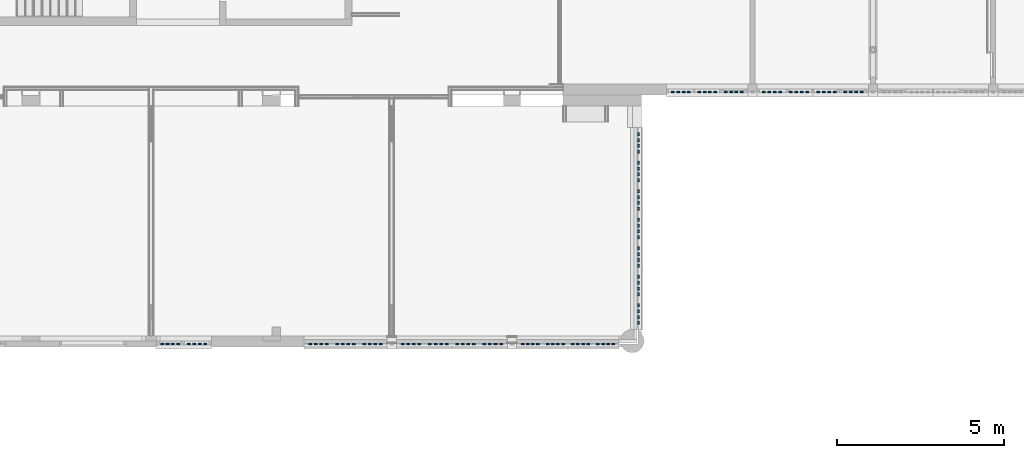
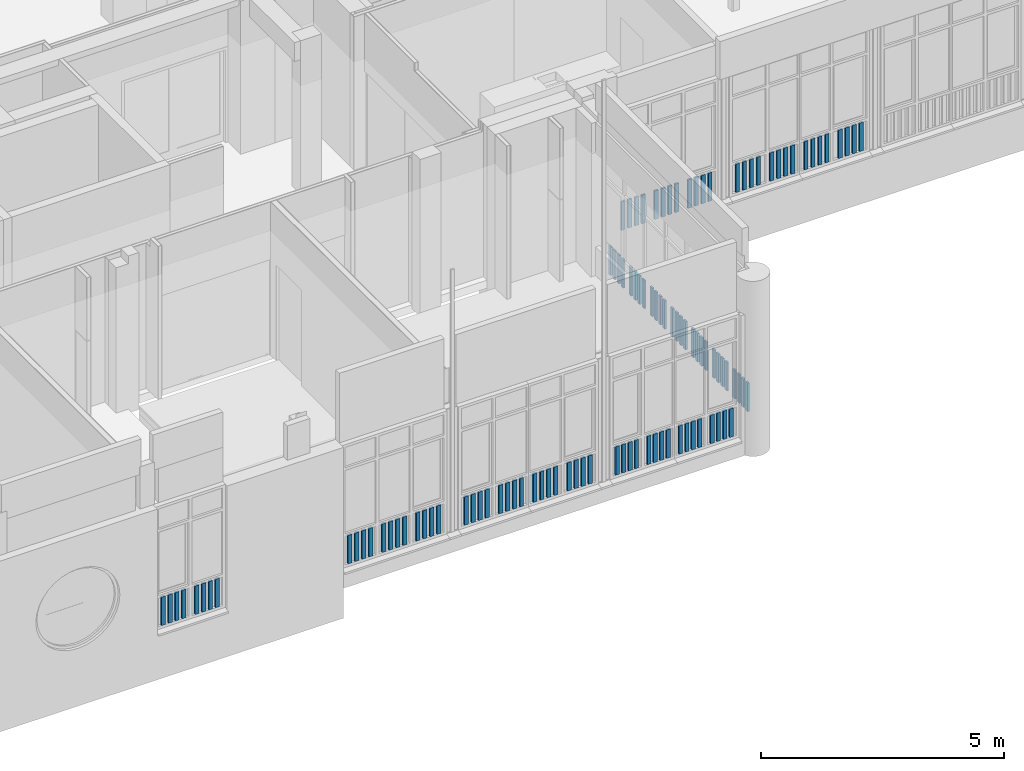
# One storey, part 53 of 135: 108 columns.
"""IFC2X3 building model written with IfcOpenShell, lengths in millimetres."""

from ifc_helpers import new_model, entity, si_unit, converted_unit, derived_unit, money_unit, direction, frame, origin_with_axes, place, context, subcontext, project, spatial, faceted_brep, material, type_object, element, save


model = new_model("IFC2X3")

# Units and contexts
model_context = context("Model", 3, precision=0.01, world=origin_with_axes(), true_north=direction((0.0, 1.0)))
body_context = subcontext(model_context, "Body", "Model", "MODEL_VIEW")
ifc_project = project(units=[si_unit("LENGTHUNIT", "METRE", prefix="MILLI"), si_unit("AREAUNIT", "SQUARE_METRE"), si_unit("VOLUMEUNIT", "CUBIC_METRE"), converted_unit("PLANEANGLEUNIT", "DEGREE", entity("IfcPlaneAngleMeasure", 0.0174532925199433), si_unit("PLANEANGLEUNIT", "RADIAN"), dimensions=[0, 0, 0, 0, 0, 0, 0]), money_unit("EUR"), converted_unit("TIMEUNIT", "Year", entity("IfcTimeMeasure", 31557600.0), si_unit("TIMEUNIT", "SECOND"), dimensions=[0, 0, 1, 0, 0, 0, 0]), si_unit("MASSUNIT", "GRAM", prefix="KILO"), si_unit("THERMODYNAMICTEMPERATUREUNIT", "DEGREE_CELSIUS"), si_unit("LUMINOUSINTENSITYUNIT", "LUMEN"), si_unit("ENERGYUNIT", "JOULE", prefix="MEGA"), derived_unit("THERMALCONDUCTANCEUNIT", [(si_unit("POWERUNIT", "WATT"), 1), (si_unit("LENGTHUNIT", "METRE"), -1), (si_unit("THERMODYNAMICTEMPERATUREUNIT", "KELVIN"), -1)]), derived_unit("SPECIFICHEATCAPACITYUNIT", [(si_unit("ENERGYUNIT", "JOULE"), 1), (si_unit("MASSUNIT", "GRAM", prefix="KILO"), -1), (si_unit("THERMODYNAMICTEMPERATUREUNIT", "KELVIN"), -1)]), derived_unit("MASSDENSITYUNIT", [(si_unit("MASSUNIT", "GRAM", prefix="KILO"), 1), (si_unit("VOLUMEUNIT", "CUBIC_METRE"), -1)])], contexts=[model_context])

# Site, building, storey
site_placement = place(None, origin_with_axes())
site = spatial("IfcSite", under=ifc_project, at=site_placement, Name="Site", CompositionType="ELEMENT")
building_placement = place(site_placement, origin_with_axes())
building = spatial("IfcBuilding", under=site, at=building_placement, Name="Naam gebouw", CompositionType="ELEMENT")
storey_placement = place(building_placement, origin_with_axes())
storey = spatial("IfcBuildingStorey", under=building, at=storey_placement, Name="Begane grond N", CompositionType="ELEMENT", Elevation=0.0)

# Columns
ifc_material = material(Name="Metaal - Staal C")
column_type = type_object("IfcColumnType", Name="Metaal - Staal C 90 x 44", PredefinedType="COLUMN")
for number, where, z_axis, x_axis, name in (
    (1, (24871.79800084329, 3207.668707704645, 66.99999999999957), (0.0, 0.0, 1.0), (1.0, 0.0, 0.0), "_Kolom-x"),
    (2, (24706.92913451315, 3207.668707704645, 66.9999999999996), (0.0, 0.0, 1.0), (1.0, 0.0, 0.0), "_Kolom-x"),
    (3, (24542.06026818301, 3207.668707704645, 66.99999999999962), (0.0, 0.0, 1.0), (1.0, 0.0, 0.0), "_Kolom-x"),
    (4, (24377.19140185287, 3207.668707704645, 66.99999999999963), (0.0, 0.0, 1.0), (1.0, 0.0, 0.0), "_Kolom-x"),
):
    element("IfcColumn", number, at=place(storey_placement, frame(where, z_axis=z_axis, x_axis=x_axis)), inside=storey, type_object=column_type, material=ifc_material, Name=name, ObjectType="COLUMN", context=body_context, shape_type="Brep", body=[
        faceted_brep([(-45.00000000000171, -21.9999999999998, 715.9999999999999), (-45.00000000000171, -21.9999999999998, 0.0), (45.00000000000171, -21.9999999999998, 0.0), (45.00000000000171, -21.9999999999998, 715.9999999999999), (-45.00000000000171, 21.9999999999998, 715.9999999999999), (-45.00000000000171, 21.9999999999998, 0.0), (45.00000000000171, 21.9999999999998, 0.0), (45.00000000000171, 21.9999999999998, 715.9999999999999)], [[[0, 1, 2, 3]], [[4, 5, 1, 0]], [[2, 1, 5, 6]], [[3, 2, 6, 7]], [[4, 0, 3, 7]], [[7, 6, 5, 4]]]),
    ])
for number, where, z_axis, x_axis, name in (
    (5, (23898.01923602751, 3207.668707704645, 66.9999999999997), (0.0, 0.0, 1.0), (1.0, 0.0, 0.0), "_Kolom-x"),
    (6, (23733.15036969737, 3207.668707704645, 66.99999999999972), (0.0, 0.0, 1.0), (1.0, 0.0, 0.0), "_Kolom-x"),
    (7, (23568.28150336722, 3207.668707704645, 66.99999999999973), (0.0, 0.0, 1.0), (1.0, 0.0, 0.0), "_Kolom-x"),
    (8, (23253.97820387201, 3207.668707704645, 66.99999999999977), (0.0, 0.0, 1.0), (1.0, 0.0, 0.0), "_Kolom-x"),
    (9, (23089.10933754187, 3207.668707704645, 66.99999999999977), (0.0, 0.0, 1.0), (1.0, 0.0, 0.0), "_Kolom-x"),
    (10, (24062.88810235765, 3207.668707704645, 66.99999999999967), (0.0, 0.0, 1.0), (1.0, 0.0, 0.0), "_Kolom-x"),
):
    element("IfcColumn", number, at=place(storey_placement, frame(where, z_axis=z_axis, x_axis=x_axis)), inside=storey, type_object=column_type, material=ifc_material, Name=name, ObjectType="COLUMN", context=body_context, shape_type="Brep", body=[
        faceted_brep([(-45.00000000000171, -21.9999999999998, 715.9999999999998), (-45.00000000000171, -21.9999999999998, 0.0), (45.00000000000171, -21.9999999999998, 0.0), (45.00000000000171, -21.9999999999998, 715.9999999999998), (-45.00000000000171, 21.9999999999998, 715.9999999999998), (-45.00000000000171, 21.9999999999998, 0.0), (45.00000000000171, 21.9999999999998, 0.0), (45.00000000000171, 21.9999999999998, 715.9999999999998)], [[[0, 1, 2, 3]], [[4, 5, 1, 0]], [[2, 1, 5, 6]], [[3, 2, 6, 7]], [[4, 0, 3, 7]], [[7, 6, 5, 4]]]),
    ])
for number, where, z_axis, x_axis, name in (
    (11, (22924.24047121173, 3207.668707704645, 66.99999999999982), (0.0, 0.0, 1.0), (1.0, 0.0, 0.0), "_Kolom-x"),
    (12, (22759.37160488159, 3207.668707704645, 66.99999999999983), (0.0, 0.0, 1.0), (1.0, 0.0, 0.0), "_Kolom-x"),
):
    element("IfcColumn", number, at=place(storey_placement, frame(where, z_axis=z_axis, x_axis=x_axis)), inside=storey, type_object=column_type, material=ifc_material, Name=name, ObjectType="COLUMN", context=body_context, shape_type="Brep", body=[
        faceted_brep([(-45.00000000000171, -21.9999999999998, 715.9999999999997), (-45.00000000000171, -21.9999999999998, 0.0), (45.00000000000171, -21.9999999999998, 0.0), (45.00000000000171, -21.9999999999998, 715.9999999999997), (-45.00000000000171, 21.9999999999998, 715.9999999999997), (-45.00000000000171, 21.9999999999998, 0.0), (45.00000000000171, 21.9999999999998, 0.0), (45.00000000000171, 21.9999999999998, 715.9999999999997)], [[[0, 1, 2, 3]], [[4, 5, 1, 0]], [[2, 1, 5, 6]], [[3, 2, 6, 7]], [[4, 0, 3, 7]], [[7, 6, 5, 4]]]),
    ])
for number, where, z_axis, x_axis, name in (
    (13, (25529.03636801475, 3207.668707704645, 66.9999999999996), (0.0, 0.0, 1.0), (1.0, 0.0, 0.0), "_Kolom-x"),
    (14, (25695.15199124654, 3207.668707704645, 66.9999999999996), (0.0, 0.0, 1.0), (1.0, 0.0, 0.0), "_Kolom-x"),
    (15, (25861.26761447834, 3207.668707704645, 66.9999999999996), (0.0, 0.0, 1.0), (1.0, 0.0, 0.0), "_Kolom-x"),
    (16, (26027.38323771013, 3207.668707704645, 66.9999999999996), (0.0, 0.0, 1.0), (1.0, 0.0, 0.0), "_Kolom-x"),
    (17, (26509.67229578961, 3207.668707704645, 66.9999999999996), (0.0, 0.0, 1.0), (1.0, 0.0, 0.0), "_Kolom-x"),
    (18, (26343.55667255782, 3207.668707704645, 66.9999999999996), (0.0, 0.0, 1.0), (1.0, 0.0, 0.0), "_Kolom-x"),
    (19, (26675.78791902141, 3207.668707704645, 66.9999999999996), (0.0, 0.0, 1.0), (1.0, 0.0, 0.0), "_Kolom-x"),
    (20, (26841.9035422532, 3207.668707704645, 66.9999999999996), (0.0, 0.0, 1.0), (1.0, 0.0, 0.0), "_Kolom-x"),
    (21, (27158.07697710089, 3207.668707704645, 66.9999999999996), (0.0, 0.0, 1.0), (1.0, 0.0, 0.0), "_Kolom-x"),
    (22, (27324.19260033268, 3207.668707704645, 66.9999999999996), (0.0, 0.0, 1.0), (1.0, 0.0, 0.0), "_Kolom-x"),
    (23, (27490.30822356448, 3207.668707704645, 66.9999999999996), (0.0, 0.0, 1.0), (1.0, 0.0, 0.0), "_Kolom-x"),
    (24, (27656.42384679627, 3207.668707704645, 66.9999999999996), (0.0, 0.0, 1.0), (1.0, 0.0, 0.0), "_Kolom-x"),
    (25, (27972.59728164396, 3207.668707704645, 66.9999999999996), (0.0, 0.0, 1.0), (1.0, 0.0, 0.0), "_Kolom-x"),
    (26, (28138.71290487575, 3207.668707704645, 66.9999999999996), (0.0, 0.0, 1.0), (1.0, 0.0, 0.0), "_Kolom-x"),
    (27, (28304.82852810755, 3207.668707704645, 66.9999999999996), (0.0, 0.0, 1.0), (1.0, 0.0, 0.0), "_Kolom-x"),
    (28, (28470.94415133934, 3207.668707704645, 66.9999999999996), (0.0, 0.0, 1.0), (1.0, 0.0, 0.0), "_Kolom-x"),
    (29, (29270.43364654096, 3207.668707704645, 66.9999999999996), (0.0, 0.0, 1.0), (1.0, 0.0, 0.0), "_Kolom-x"),
    (30, (29422.3780909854, 3207.668707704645, 66.9999999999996), (0.0, 0.0, 1.0), (1.0, 0.0, 0.0), "_Kolom-x"),
    (31, (29118.48920209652, 3207.668707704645, 66.9999999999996), (0.0, 0.0, 1.0), (1.0, 0.0, 0.0), "_Kolom-x"),
    (32, (29869.2392020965, 3207.668707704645, 66.9999999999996), (0.0, 0.0, 1.0), (1.0, 0.0, 0.0), "_Kolom-x"),
    (33, (30021.18364654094, 3207.668707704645, 66.9999999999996), (0.0, 0.0, 1.0), (1.0, 0.0, 0.0), "_Kolom-x"),
    (34, (29574.32253542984, 3207.668707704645, 66.9999999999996), (0.0, 0.0, 1.0), (1.0, 0.0, 0.0), "_Kolom-x"),
    (35, (30173.12809098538, 3207.668707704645, 66.9999999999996), (0.0, 0.0, 1.0), (1.0, 0.0, 0.0), "_Kolom-x"),
    (36, (30619.98920209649, 3207.668707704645, 66.9999999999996), (0.0, 0.0, 1.0), (1.0, 0.0, 0.0), "_Kolom-x"),
    (37, (30325.07253542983, 3207.668707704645, 66.9999999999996), (0.0, 0.0, 1.0), (1.0, 0.0, 0.0), "_Kolom-x"),
    (38, (30923.87809098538, 3207.668707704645, 66.9999999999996), (0.0, 0.0, 1.0), (1.0, 0.0, 0.0), "_Kolom-x"),
    (39, (30771.93364654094, 3207.668707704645, 66.9999999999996), (0.0, 0.0, 1.0), (1.0, 0.0, 0.0), "_Kolom-x"),
    (40, (31075.82253542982, 3207.668707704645, 66.9999999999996), (0.0, 0.0, 1.0), (1.0, 0.0, 0.0), "_Kolom-x"),
    (41, (31370.73920209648, 3207.668707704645, 66.9999999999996), (0.0, 0.0, 1.0), (1.0, 0.0, 0.0), "_Kolom-x"),
    (42, (31674.62809098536, 3207.668707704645, 66.9999999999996), (0.0, 0.0, 1.0), (1.0, 0.0, 0.0), "_Kolom-x"),
    (43, (31522.68364654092, 3207.668707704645, 66.9999999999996), (0.0, 0.0, 1.0), (1.0, 0.0, 0.0), "_Kolom-x"),
):
    element("IfcColumn", number, at=place(storey_placement, frame(where, z_axis=z_axis, x_axis=x_axis)), inside=storey, type_object=column_type, material=ifc_material, Name=name, ObjectType="COLUMN", context=body_context, shape_type="Brep", body=[
        faceted_brep([(-45.00000000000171, -21.9999999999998, 715.9999999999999), (-45.00000000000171, -21.9999999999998, 0.0), (45.00000000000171, -21.9999999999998, 0.0), (45.00000000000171, -21.9999999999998, 715.9999999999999), (-45.00000000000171, 21.9999999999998, 715.9999999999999), (-45.00000000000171, 21.9999999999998, 0.0), (45.00000000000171, 21.9999999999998, 0.0), (45.00000000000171, 21.9999999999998, 715.9999999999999)], [[[0, 1, 2, 3]], [[4, 5, 1, 0]], [[2, 1, 5, 6]], [[3, 2, 6, 7]], [[4, 0, 3, 7]], [[7, 6, 5, 4]]]),
    ])
column_1_placement = place(storey_placement, frame((19611.17837446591, 3207.668707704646, 67.00000000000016), z_axis=(0.0, 0.0, 1.0), x_axis=(1.0, 0.0, 0.0)))
element("IfcColumn", 44, at=column_1_placement, inside=storey, type_object=column_type, material=ifc_material, Name="_Kolom-x", ObjectType="COLUMN", context=body_context, shape_type="Brep", body=[
    faceted_brep([(-45.00000000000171, -21.9999999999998, 715.9999999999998), (-45.00000000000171, -21.9999999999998, 0.0), (45.00000000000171, -21.9999999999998, 0.0), (45.00000000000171, -21.9999999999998, 715.9999999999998), (-45.00000000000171, 21.9999999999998, 715.9999999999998), (-45.00000000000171, 21.9999999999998, 0.0), (45.00000000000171, 21.9999999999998, 0.0), (45.00000000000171, 21.9999999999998, 715.9999999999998)], [[[0, 1, 2, 3]], [[4, 5, 1, 0]], [[2, 1, 5, 6]], [[3, 2, 6, 7]], [[4, 0, 3, 7]], [[7, 6, 5, 4]]]),
])
column_2_placement = place(storey_placement, frame((31826.5725354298, 3207.668707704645, 66.9999999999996), z_axis=(0.0, 0.0, 1.0), x_axis=(1.0, 0.0, 0.0)))
element("IfcColumn", 45, at=column_2_placement, inside=storey, type_object=column_type, material=ifc_material, Name="_Kolom-x", ObjectType="COLUMN", context=body_context, shape_type="Brep", body=[
    faceted_brep([(-45.00000000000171, -21.9999999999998, 715.9999999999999), (-45.00000000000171, -21.9999999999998, 0.0), (45.00000000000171, -21.9999999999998, 0.0), (45.00000000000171, -21.9999999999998, 715.9999999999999), (-45.00000000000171, 21.9999999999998, 715.9999999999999), (-45.00000000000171, 21.9999999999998, 0.0), (45.00000000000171, 21.9999999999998, 0.0), (45.00000000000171, 21.9999999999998, 715.9999999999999)], [[[0, 1, 2, 3]], [[4, 5, 1, 0]], [[2, 1, 5, 6]], [[3, 2, 6, 7]], [[4, 0, 3, 7]], [[7, 6, 5, 4]]]),
])
for number, where, z_axis, x_axis, name in (
    (46, (19448.78497345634, 3207.668707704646, 67.00000000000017), (0.0, 0.0, 1.0), (1.0, 0.0, 0.0), "_Kolom-x"),
    (47, (19123.9981714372, 3207.668707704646, 67.0000000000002), (0.0, 0.0, 1.0), (1.0, 0.0, 0.0), "_Kolom-x"),
):
    element("IfcColumn", number, at=place(storey_placement, frame(where, z_axis=z_axis, x_axis=x_axis)), inside=storey, type_object=column_type, material=ifc_material, Name=name, ObjectType="COLUMN", context=body_context, shape_type="Brep", body=[
        faceted_brep([(-45.00000000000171, -21.9999999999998, 715.9999999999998), (-45.00000000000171, -21.9999999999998, 0.0), (45.00000000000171, -21.9999999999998, 0.0), (45.00000000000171, -21.9999999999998, 715.9999999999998), (-45.00000000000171, 21.9999999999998, 715.9999999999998), (-45.00000000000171, 21.9999999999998, 0.0), (45.00000000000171, 21.9999999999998, 0.0), (45.00000000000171, 21.9999999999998, 715.9999999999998)], [[[0, 1, 2, 3]], [[4, 5, 1, 0]], [[2, 1, 5, 6]], [[3, 2, 6, 7]], [[4, 0, 3, 7]], [[7, 6, 5, 4]]]),
    ])
column_3_placement = place(storey_placement, frame((18813.40806992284, 3207.668707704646, 67.00000000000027), z_axis=(0.0, 0.0, 1.0), x_axis=(1.0, 0.0, 0.0)))
element("IfcColumn", 48, at=column_3_placement, inside=storey, type_object=column_type, material=ifc_material, Name="_Kolom-x", ObjectType="COLUMN", context=body_context, shape_type="Brep", body=[
    faceted_brep([(-45.00000000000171, -21.9999999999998, 715.9999999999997), (-45.00000000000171, -21.9999999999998, 0.0), (45.00000000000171, -21.9999999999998, 0.0), (45.00000000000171, -21.9999999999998, 715.9999999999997), (-45.00000000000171, 21.9999999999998, 715.9999999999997), (-45.00000000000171, 21.9999999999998, 0.0), (45.00000000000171, 21.9999999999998, 0.0), (45.00000000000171, 21.9999999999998, 715.9999999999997)], [[[0, 1, 2, 3]], [[4, 5, 1, 0]], [[2, 1, 5, 6]], [[3, 2, 6, 7]], [[4, 0, 3, 7]], [[7, 6, 5, 4]]]),
])
column_4_placement = place(storey_placement, frame((19286.39157244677, 3207.668707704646, 67.00000000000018), z_axis=(0.0, 0.0, 1.0), x_axis=(1.0, 0.0, 0.0)))
element("IfcColumn", 49, at=column_4_placement, inside=storey, type_object=column_type, material=ifc_material, Name="_Kolom-x", ObjectType="COLUMN", context=body_context, shape_type="Brep", body=[
    faceted_brep([(-45.00000000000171, -21.9999999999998, 715.9999999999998), (-45.00000000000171, -21.9999999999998, 0.0), (45.00000000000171, -21.9999999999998, 0.0), (45.00000000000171, -21.9999999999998, 715.9999999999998), (-45.00000000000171, 21.9999999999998, 715.9999999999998), (-45.00000000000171, 21.9999999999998, 0.0), (45.00000000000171, 21.9999999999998, 0.0), (45.00000000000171, 21.9999999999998, 715.9999999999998)], [[[0, 1, 2, 3]], [[4, 5, 1, 0]], [[2, 1, 5, 6]], [[3, 2, 6, 7]], [[4, 0, 3, 7]], [[7, 6, 5, 4]]]),
])
for number, where, z_axis, x_axis, name in (
    (50, (18651.01466891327, 3207.668707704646, 67.00000000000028), (0.0, 0.0, 1.0), (1.0, 0.0, 0.0), "_Kolom-x"),
    (51, (18488.62126790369, 3207.668707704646, 67.0000000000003), (0.0, 0.0, 1.0), (1.0, 0.0, 0.0), "_Kolom-x"),
    (52, (18326.22786689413, 3207.668707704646, 67.00000000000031), (0.0, 0.0, 1.0), (1.0, 0.0, 0.0), "_Kolom-x"),
):
    element("IfcColumn", number, at=place(storey_placement, frame(where, z_axis=z_axis, x_axis=x_axis)), inside=storey, type_object=column_type, material=ifc_material, Name=name, ObjectType="COLUMN", context=body_context, shape_type="Brep", body=[
        faceted_brep([(-45.00000000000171, -21.9999999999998, 715.9999999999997), (-45.00000000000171, -21.9999999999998, 0.0), (45.00000000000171, -21.9999999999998, 0.0), (45.00000000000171, -21.9999999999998, 715.9999999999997), (-45.00000000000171, 21.9999999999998, 715.9999999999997), (-45.00000000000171, 21.9999999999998, 0.0), (45.00000000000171, 21.9999999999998, 0.0), (45.00000000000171, 21.9999999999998, 715.9999999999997)], [[[0, 1, 2, 3]], [[4, 5, 1, 0]], [[2, 1, 5, 6]], [[3, 2, 6, 7]], [[4, 0, 3, 7]], [[7, 6, 5, 4]]]),
    ])
for number, where, z_axis, x_axis, name in (
    (53, (33610.16666666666, 10752.91242510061, 66.99999999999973), (0.0, 0.0, 1.0), (1.0, 0.0, 0.0), "_Kolom-x"),
    (54, (33771.05555555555, 10752.91242510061, 66.99999999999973), (0.0, 0.0, 1.0), (1.0, 0.0, 0.0), "_Kolom-x"),
    (55, (33931.94444444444, 10752.91242510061, 66.99999999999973), (0.0, 0.0, 1.0), (1.0, 0.0, 0.0), "_Kolom-x"),
    (56, (34092.83333333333, 10752.91242510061, 66.99999999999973), (0.0, 0.0, 1.0), (1.0, 0.0, 0.0), "_Kolom-x"),
    (57, (34401.16666666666, 10752.91242510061, 66.99999999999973), (0.0, 0.0, 1.0), (1.0, 0.0, 0.0), "_Kolom-x"),
    (58, (34562.05555555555, 10752.91242510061, 66.99999999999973), (0.0, 0.0, 1.0), (1.0, 0.0, 0.0), "_Kolom-x"),
    (59, (34722.94444444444, 10752.91242510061, 66.99999999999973), (0.0, 0.0, 1.0), (1.0, 0.0, 0.0), "_Kolom-x"),
    (60, (34883.83333333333, 10752.91242510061, 66.99999999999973), (0.0, 0.0, 1.0), (1.0, 0.0, 0.0), "_Kolom-x"),
    (61, (35353.05555555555, 10752.91242510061, 66.99999999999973), (0.0, 0.0, 1.0), (1.0, 0.0, 0.0), "_Kolom-x"),
    (62, (35192.16666666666, 10752.91242510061, 66.99999999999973), (0.0, 0.0, 1.0), (1.0, 0.0, 0.0), "_Kolom-x"),
    (63, (35513.94444444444, 10752.91242510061, 66.99999999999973), (0.0, 0.0, 1.0), (1.0, 0.0, 0.0), "_Kolom-x"),
    (64, (35674.83333333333, 10752.91242510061, 66.99999999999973), (0.0, 0.0, 1.0), (1.0, 0.0, 0.0), "_Kolom-x"),
    (65, (36329.08333333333, 10752.91242510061, 66.99999999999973), (0.0, 0.0, 1.0), (1.0, 0.0, 0.0), "_Kolom-x"),
    (66, (36495.19444444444, 10752.91242510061, 66.99999999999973), (0.0, 0.0, 1.0), (1.0, 0.0, 0.0), "_Kolom-x"),
    (67, (36661.30555555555, 10752.91242510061, 66.99999999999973), (0.0, 0.0, 1.0), (1.0, 0.0, 0.0), "_Kolom-x"),
    (68, (36827.41666666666, 10752.91242510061, 66.99999999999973), (0.0, 0.0, 1.0), (1.0, 0.0, 0.0), "_Kolom-x"),
    (69, (37143.58333333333, 10752.91242510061, 66.99999999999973), (0.0, 0.0, 1.0), (1.0, 0.0, 0.0), "_Kolom-x"),
    (70, (37309.69444444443, 10752.91242510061, 66.99999999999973), (0.0, 0.0, 1.0), (1.0, 0.0, 0.0), "_Kolom-x"),
    (71, (37475.80555555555, 10752.91242510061, 66.99999999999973), (0.0, 0.0, 1.0), (1.0, 0.0, 0.0), "_Kolom-x"),
    (72, (37641.91666666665, 10752.91242510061, 66.99999999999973), (0.0, 0.0, 1.0), (1.0, 0.0, 0.0), "_Kolom-x"),
    (73, (37958.08333333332, 10752.91242510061, 66.99999999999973), (0.0, 0.0, 1.0), (1.0, 0.0, 0.0), "_Kolom-x"),
    (74, (38124.19444444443, 10752.91242510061, 66.99999999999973), (0.0, 0.0, 1.0), (1.0, 0.0, 0.0), "_Kolom-x"),
    (75, (38290.30555555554, 10752.91242510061, 66.99999999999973), (0.0, 0.0, 1.0), (1.0, 0.0, 0.0), "_Kolom-x"),
    (76, (38456.41666666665, 10752.91242510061, 66.99999999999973), (0.0, 0.0, 1.0), (1.0, 0.0, 0.0), "_Kolom-x"),
    (77, (38772.58333333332, 10752.91242510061, 66.99999999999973), (0.0, 0.0, 1.0), (1.0, 0.0, 0.0), "_Kolom-x"),
    (78, (38938.69444444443, 10752.91242510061, 66.99999999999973), (0.0, 0.0, 1.0), (1.0, 0.0, 0.0), "_Kolom-x"),
    (79, (39104.80555555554, 10752.91242510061, 66.99999999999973), (0.0, 0.0, 1.0), (1.0, 0.0, 0.0), "_Kolom-x"),
    (80, (39270.91666666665, 10752.91242510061, 66.99999999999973), (0.0, 0.0, 1.0), (1.0, 0.0, 0.0), "_Kolom-x"),
):
    element("IfcColumn", number, at=place(storey_placement, frame(where, z_axis=z_axis, x_axis=x_axis)), inside=storey, type_object=column_type, material=ifc_material, Name=name, ObjectType="COLUMN", context=body_context, shape_type="Brep", body=[
        faceted_brep([(-45.00000000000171, -22.00000000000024, 715.9999999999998), (-45.00000000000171, -22.00000000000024, 0.0), (45.00000000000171, -22.00000000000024, 0.0), (45.00000000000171, -22.00000000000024, 715.9999999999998), (-45.00000000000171, 22.00000000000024, 715.9999999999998), (-45.00000000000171, 22.00000000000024, 0.0), (45.00000000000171, 22.00000000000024, 0.0), (45.00000000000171, 22.00000000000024, 715.9999999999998)], [[[0, 1, 2, 3]], [[4, 5, 1, 0]], [[2, 1, 5, 6]], [[3, 2, 6, 7]], [[4, 0, 3, 7]], [[7, 6, 5, 4]]]),
    ])
column_5_placement = place(storey_placement, frame((32583.47026007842, 3843.997308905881, 67.00000000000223), z_axis=(0.0, 0.0, 1.0), x_axis=(0.0, 1.0, 0.0)))
element("IfcColumn", 81, at=column_5_placement, inside=storey, type_object=column_type, material=ifc_material, Name="_Kolom-x", ObjectType="COLUMN", context=body_context, shape_type="Brep", body=[
    faceted_brep([(-44.99999999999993, -21.99999999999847, 716.0), (-44.99999999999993, -21.99999999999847, 0.0), (44.99999999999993, -21.99999999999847, 0.0), (44.99999999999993, -21.99999999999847, 716.0), (-44.99999999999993, 21.99999999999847, 716.0), (-44.99999999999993, 21.99999999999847, 0.0), (44.99999999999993, 21.99999999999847, 0.0), (44.99999999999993, 21.99999999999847, 716.0)], [[[0, 1, 2, 3]], [[4, 5, 1, 0]], [[2, 1, 5, 6]], [[3, 2, 6, 7]], [[4, 0, 3, 7]], [[7, 6, 5, 4]]]),
])
column_6_placement = place(storey_placement, frame((32583.47026007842, 4018.727467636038, 67.00000000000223), z_axis=(0.0, 0.0, 1.0), x_axis=(0.0, 1.0, 0.0)))
element("IfcColumn", 82, at=column_6_placement, inside=storey, type_object=column_type, material=ifc_material, Name="_Kolom-x", ObjectType="COLUMN", context=body_context, shape_type="Brep", body=[
    faceted_brep([(-44.99999999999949, -21.99999999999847, 716.0), (-44.99999999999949, -21.99999999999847, 0.0), (44.99999999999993, -21.99999999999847, 0.0), (44.99999999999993, -21.99999999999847, 716.0), (-44.99999999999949, 21.99999999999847, 716.0), (-44.99999999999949, 21.99999999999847, 0.0), (44.99999999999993, 21.99999999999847, 0.0), (44.99999999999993, 21.99999999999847, 716.0)], [[[0, 1, 2, 3]], [[4, 5, 1, 0]], [[2, 1, 5, 6]], [[3, 2, 6, 7]], [[4, 0, 3, 7]], [[7, 6, 5, 4]]]),
])
for number, where, z_axis, x_axis, name in (
    (83, (32583.47026007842, 4193.457626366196, 67.00000000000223), (0.0, 0.0, 1.0), (0.0, 1.0, 0.0), "_Kolom-x"),
    (84, (32583.47026007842, 4368.187785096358, 67.00000000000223), (0.0, 0.0, 1.0), (0.0, 1.0, 0.0), "_Kolom-x"),
    (85, (32583.47026007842, 4697.283023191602, 67.00000000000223), (0.0, 0.0, 1.0), (0.0, 1.0, 0.0), "_Kolom-x"),
    (86, (32583.47026007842, 4872.013181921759, 67.00000000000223), (0.0, 0.0, 1.0), (0.0, 1.0, 0.0), "_Kolom-x"),
    (87, (32583.47026007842, 5046.743340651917, 67.00000000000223), (0.0, 0.0, 1.0), (0.0, 1.0, 0.0), "_Kolom-x"),
    (88, (32583.47026007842, 5221.473499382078, 67.00000000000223), (0.0, 0.0, 1.0), (0.0, 1.0, 0.0), "_Kolom-x"),
    (89, (32583.47026007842, 5550.568737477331, 67.00000000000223), (0.0, 0.0, 1.0), (0.0, 1.0, 0.0), "_Kolom-x"),
    (90, (32583.47026007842, 5725.298896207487, 67.00000000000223), (0.0, 0.0, 1.0), (0.0, 1.0, 0.0), "_Kolom-x"),
    (91, (32583.47026007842, 5900.029054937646, 67.00000000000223), (0.0, 0.0, 1.0), (0.0, 1.0, 0.0), "_Kolom-x"),
    (92, (32583.47026007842, 6403.854451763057, 67.00000000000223), (0.0, 0.0, 1.0), (0.0, 1.0, 0.0), "_Kolom-x"),
    (93, (32583.47026007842, 6578.584610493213, 67.00000000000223), (0.0, 0.0, 1.0), (0.0, 1.0, 0.0), "_Kolom-x"),
    (94, (32583.47026007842, 6074.759213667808, 67.00000000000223), (0.0, 0.0, 1.0), (0.0, 1.0, 0.0), "_Kolom-x"),
    (95, (32583.47026007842, 6753.314769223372, 67.00000000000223), (0.0, 0.0, 1.0), (0.0, 1.0, 0.0), "_Kolom-x"),
    (96, (32583.47026007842, 6928.044927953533, 67.00000000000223), (0.0, 0.0, 1.0), (0.0, 1.0, 0.0), "_Kolom-x"),
    (97, (32583.47026007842, 7257.140166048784, 67.00000000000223), (0.0, 0.0, 1.0), (0.0, 1.0, 0.0), "_Kolom-x"),
    (98, (32583.47026007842, 7431.87032477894, 67.00000000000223), (0.0, 0.0, 1.0), (0.0, 1.0, 0.0), "_Kolom-x"),
    (99, (32583.47026007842, 7606.600483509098, 67.00000000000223), (0.0, 0.0, 1.0), (0.0, 1.0, 0.0), "_Kolom-x"),
    (100, (32583.47026007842, 7781.33064223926, 67.00000000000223), (0.0, 0.0, 1.0), (0.0, 1.0, 0.0), "_Kolom-x"),
    (101, (32583.47026007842, 8110.42588033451, 67.00000000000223), (0.0, 0.0, 1.0), (0.0, 1.0, 0.0), "_Kolom-x"),
    (102, (32583.47026007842, 8285.156039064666, 67.00000000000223), (0.0, 0.0, 1.0), (0.0, 1.0, 0.0), "_Kolom-x"),
    (103, (32583.47026007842, 8459.886197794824, 67.00000000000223), (0.0, 0.0, 1.0), (0.0, 1.0, 0.0), "_Kolom-x"),
    (104, (32583.47026007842, 8634.616356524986, 67.00000000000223), (0.0, 0.0, 1.0), (0.0, 1.0, 0.0), "_Kolom-x"),
    (105, (32583.47026007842, 8963.711594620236, 67.00000000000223), (0.0, 0.0, 1.0), (0.0, 1.0, 0.0), "_Kolom-x"),
    (106, (32583.47026007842, 9138.441753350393, 67.00000000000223), (0.0, 0.0, 1.0), (0.0, 1.0, 0.0), "_Kolom-x"),
    (107, (32583.47026007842, 9487.902070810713, 67.00000000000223), (0.0, 0.0, 1.0), (0.0, 1.0, 0.0), "_Kolom-x"),
    (108, (32583.47026007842, 9313.171912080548, 67.00000000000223), (0.0, 0.0, 1.0), (0.0, 1.0, 0.0), "_Kolom-x"),
):
    element("IfcColumn", number, at=place(storey_placement, frame(where, z_axis=z_axis, x_axis=x_axis)), inside=storey, type_object=column_type, material=ifc_material, Name=name, ObjectType="COLUMN", context=body_context, shape_type="Brep", body=[
        faceted_brep([(-44.99999999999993, -21.99999999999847, 716.0), (-44.99999999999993, -21.99999999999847, 0.0), (44.99999999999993, -21.99999999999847, 0.0), (44.99999999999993, -21.99999999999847, 716.0), (-44.99999999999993, 21.99999999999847, 716.0), (-44.99999999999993, 21.99999999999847, 0.0), (44.99999999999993, 21.99999999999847, 0.0), (44.99999999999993, 21.99999999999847, 716.0)], [[[0, 1, 2, 3]], [[4, 5, 1, 0]], [[2, 1, 5, 6]], [[3, 2, 6, 7]], [[4, 0, 3, 7]], [[7, 6, 5, 4]]]),
    ])

save(model, "model.ifc")
